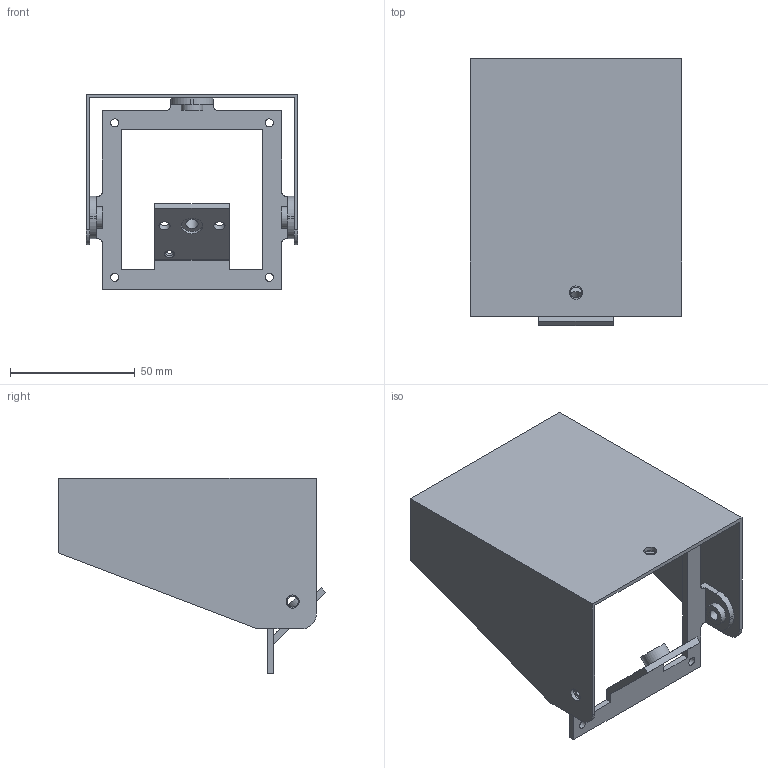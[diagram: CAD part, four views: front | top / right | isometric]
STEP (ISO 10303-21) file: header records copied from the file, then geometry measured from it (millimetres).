
FILE_DESCRIPTION(('FreeCAD Model'),'2;1');
FILE_NAME('Open CASCADE Shape Model','2025-01-31T22:26:04',(''),(''), 'Open CASCADE STEP processor 7.6','FreeCAD','Unknown');
FILE_SCHEMA(('AUTOMOTIVE_DESIGN { 1 0 10303 214 1 1 1 1 }'));
Length unit declared in the file: millimetre
Products named in the file (3): Unnamed; Camera Case 80 - Awning Cover - Simplified002; Camera Case 80 Rig Angle 45 for Awning Cover - Simplified002
Assembly tree (2 placements, depth 2):
  Unnamed
    Camera Case 80 - Awning Cover - Simplified002
    Camera Case 80 Rig Angle 45 for Awning Cover - Simplified002
Bounding box: 85 x 107.22 x 78.5 mm (x, y, z)
Volume: 37652.2 mm3; surface area: 48028.7 mm2
Topology: 2 solids, 2 shells, 100 faces, 263 edges, 176 vertices
Faces by surface type: plane 57, cylinder 41, cone 2
Full cylindrical faces by diameter (mm): 3 x1, 3.3 x4, 4.4 x5, 4.5 x2, 5.105 x1, 5.3 x3, 6.4 x3, 8.6 x3, 8.712 x1, 8.738 x1, 11.176 x1
Entity records: 6713 total; most frequent: CARTESIAN_POINT 1236, DIRECTION 1040, LINE 599, VECTOR 599, ORIENTED_EDGE 526, PCURVE 526, DEFINITIONAL_REPRESENTATION 526, EDGE_CURVE 263
